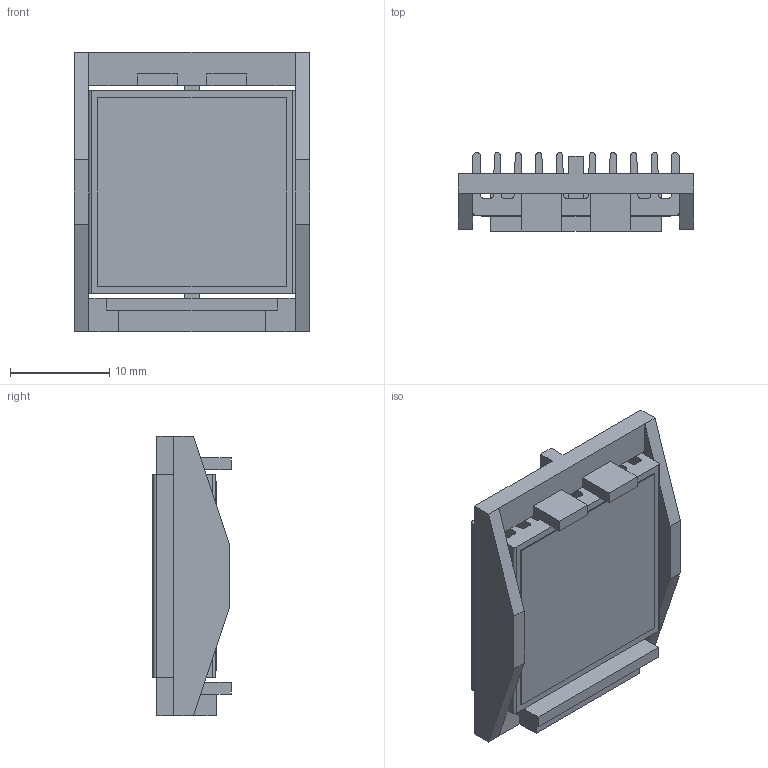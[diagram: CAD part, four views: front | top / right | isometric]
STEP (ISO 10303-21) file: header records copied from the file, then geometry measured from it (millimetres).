
FILE_DESCRIPTION (( 'STEP AP214' ), '1' );
FILE_NAME ('INL21001-6-1.7BU.STEP', '2023-02-21T16:14:47', ( '' ), ( '' ), 'SwSTEP 2.0', 'SolidWorks 2020', '' );
FILE_SCHEMA (( 'AUTOMOTIVE_DESIGN' ));
Length unit declared in the file: millimetre
Products named in the file (1): INL21001-6-1.7BU
Bounding box: 23.7 x 7.9 x 28.1 mm (x, y, z)
Volume: 2341.6 mm3; surface area: 5024.1 mm2
Topology: 3 solids, 3 shells, 116 faces, 332 edges, 220 vertices
Faces by surface type: plane 86, cylinder 30
Entity records: 5096 total; most frequent: CARTESIAN_POINT 669, ORIENTED_EDGE 664, DIRECTION 626, EDGE_CURVE 332, LINE 272, VECTOR 272, VERTEX_POINT 220, AXIS2_PLACEMENT_3D 177
